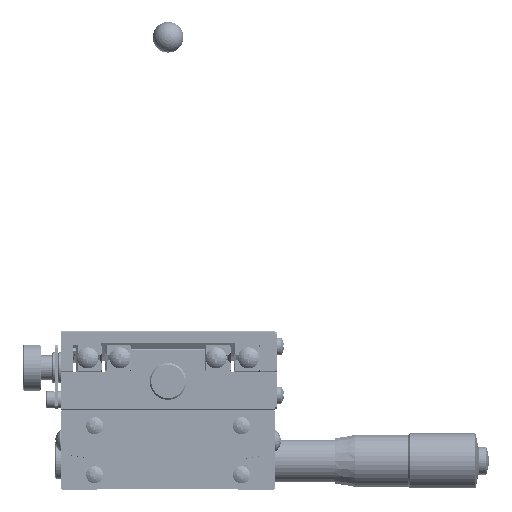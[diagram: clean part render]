
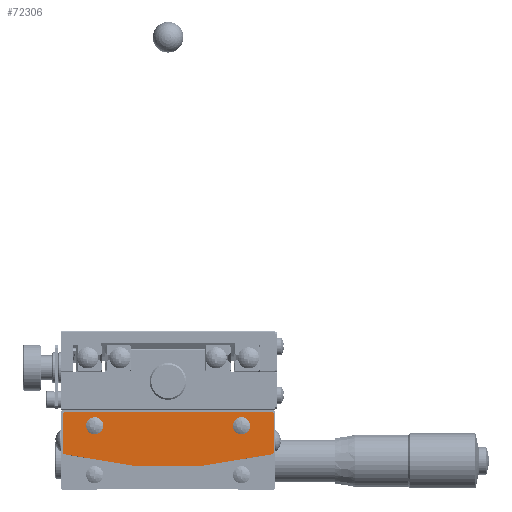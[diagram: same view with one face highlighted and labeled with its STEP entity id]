
A CAD part, front view. The second image highlights one B-rep face of the part: STEP entity #72306.
In plain terms, the highlighted planar face has unit normal (0, -1, 0).
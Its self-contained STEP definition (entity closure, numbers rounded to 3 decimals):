
#6646 = CARTESIAN_POINT ( 'NONE',  ( -26.8, -35.5, -5. ) ) ;
#6647 = DIRECTION ( 'NONE',  ( 0., 0., -1. ) ) ;
#6648 = DIRECTION ( 'NONE',  ( 0., 1., 0. ) ) ;
#6649 = AXIS2_PLACEMENT_3D ( 'NONE', #6655, #6648, #6647 ) ;
#6650 = CIRCLE ( 'NONE', #6649, 2.8 ) ;
#6655 = CARTESIAN_POINT ( 'NONE',  ( -24., -35.5, -5. ) ) ;
#6749 = CARTESIAN_POINT ( 'NONE',  ( 21.2, -35.5, -5. ) ) ;
#6750 = DIRECTION ( 'NONE',  ( 0., 0., -1. ) ) ;
#6751 = DIRECTION ( 'NONE',  ( 0., 1., 0. ) ) ;
#6752 = CARTESIAN_POINT ( 'NONE',  ( 24., -35.5, -5. ) ) ;
#6753 = AXIS2_PLACEMENT_3D ( 'NONE', #6752, #6751, #6750 ) ;
#6754 = CIRCLE ( 'NONE', #6753, 2.8 ) ;
#6781 = CARTESIAN_POINT ( 'NONE',  ( -21.2, -35.5, -5. ) ) ;
#6876 = CARTESIAN_POINT ( 'NONE',  ( 26.8, -35.5, -5. ) ) ;
#38979 = CARTESIAN_POINT ( 'NONE',  ( -34., -35.5, -0.5 ) ) ;
#42499 = EDGE_CURVE ( 'NONE', #42502, #42602, #6650, .T. ) ;
#42502 = VERTEX_POINT ( 'NONE', #6646 ) ;
#42572 = EDGE_CURVE ( 'NONE', #42575, #42679, #6754, .T. ) ;
#42575 = VERTEX_POINT ( 'NONE', #6749 ) ;
#42602 = VERTEX_POINT ( 'NONE', #6781 ) ;
#42611 = CARTESIAN_POINT ( 'NONE',  ( -34.121, -35.5, -14.294 ) ) ;
#42624 = DIRECTION ( 'NONE',  ( 0., 0., -1. ) ) ;
#42626 = DIRECTION ( 'NONE',  ( 0., 1., 0. ) ) ;
#42628 = AXIS2_PLACEMENT_3D ( 'NONE', #42637, #42626, #42624 ) ;
#42630 = CIRCLE ( 'NONE', #42628, 2.8 ) ;
#42637 = CARTESIAN_POINT ( 'NONE',  ( 24., -35.5, -5. ) ) ;
#42653 = DIRECTION ( 'NONE',  ( 1., 0., 0. ) ) ;
#42655 = DIRECTION ( 'NONE',  ( 0., -1., 0. ) ) ;
#42656 = CARTESIAN_POINT ( 'NONE',  ( 34., -35.5, -13.809 ) ) ;
#42658 = AXIS2_PLACEMENT_3D ( 'NONE', #42656, #42655, #42653 ) ;
#42660 = CIRCLE ( 'NONE', #42658, 0.5 ) ;
#42666 = CARTESIAN_POINT ( 'NONE',  ( 34.121, -35.5, -14.294 ) ) ;
#42679 = VERTEX_POINT ( 'NONE', #6876 ) ;
#42684 = DIRECTION ( 'NONE',  ( 1., 0., 0. ) ) ;
#42686 = DIRECTION ( 'NONE',  ( 0., -1., 0. ) ) ;
#42688 = CARTESIAN_POINT ( 'NONE',  ( 0., -35.5, 122. ) ) ;
#42689 = AXIS2_PLACEMENT_3D ( 'NONE', #42688, #42686, #42684 ) ;
#42691 = CIRCLE ( 'NONE', #42689, 140.5 ) ;
#42723 = PLANE ( 'NONE',  #42868 ) ;
#42728 = FACE_OUTER_BOUND ( 'NONE', #72201, .T. ) ;
#42729 = FACE_BOUND ( 'NONE', #72188, .T. ) ;
#42731 = FACE_BOUND ( 'NONE', #72308, .T. ) ;
#42749 = DIRECTION ( 'NONE',  ( -1., 0., 0. ) ) ;
#42750 = VECTOR ( 'NONE', #42749, 1000. ) ;
#42752 = CARTESIAN_POINT ( 'NONE',  ( 34., -35.5, -0.5 ) ) ;
#42754 = LINE ( 'NONE', #42752, #42750 ) ;
#42758 = CARTESIAN_POINT ( 'NONE',  ( 34., -35.5, -0.5 ) ) ;
#42775 = DIRECTION ( 'NONE',  ( -0.707, 0., 0.707 ) ) ;
#42776 = VECTOR ( 'NONE', #42775, 1000. ) ;
#42778 = CARTESIAN_POINT ( 'NONE',  ( 34.5, -35.5, -1. ) ) ;
#42780 = LINE ( 'NONE', #42778, #42776 ) ;
#42785 = CARTESIAN_POINT ( 'NONE',  ( 34.5, -35.5, -1. ) ) ;
#42787 = DIRECTION ( 'NONE',  ( 0., 0., 1. ) ) ;
#42788 = VECTOR ( 'NONE', #42787, 1000. ) ;
#42790 = CARTESIAN_POINT ( 'NONE',  ( 34.5, -35.5, -13.809 ) ) ;
#42791 = LINE ( 'NONE', #42790, #42788 ) ;
#42795 = CARTESIAN_POINT ( 'NONE',  ( 34.5, -35.5, -13.809 ) ) ;
#42852 = DIRECTION ( 'NONE',  ( 0., 0., -1. ) ) ;
#42854 = DIRECTION ( 'NONE',  ( 0., 1., 0. ) ) ;
#42855 = CARTESIAN_POINT ( 'NONE',  ( -24., -35.5, -5. ) ) ;
#42857 = AXIS2_PLACEMENT_3D ( 'NONE', #42855, #42854, #42852 ) ;
#42859 = CIRCLE ( 'NONE', #42857, 2.8 ) ;
#42864 = DIRECTION ( 'NONE',  ( 1., 0., 0. ) ) ;
#42866 = DIRECTION ( 'NONE',  ( 0., -1., 0. ) ) ;
#42867 = CARTESIAN_POINT ( 'NONE',  ( 0., -35.5, 122. ) ) ;
#42868 = AXIS2_PLACEMENT_3D ( 'NONE', #42867, #42866, #42864 ) ;
#42875 = DIRECTION ( 'NONE',  ( 1., 0., 0. ) ) ;
#42877 = DIRECTION ( 'NONE',  ( 0., -1., 0. ) ) ;
#42878 = CARTESIAN_POINT ( 'NONE',  ( -34., -35.5, -13.809 ) ) ;
#42880 = AXIS2_PLACEMENT_3D ( 'NONE', #42878, #42877, #42875 ) ;
#42882 = CIRCLE ( 'NONE', #42880, 0.5 ) ;
#42913 = CARTESIAN_POINT ( 'NONE',  ( -34.5, -35.5, -13.809 ) ) ;
#42915 = DIRECTION ( 'NONE',  ( 0., 0., -1. ) ) ;
#42917 = VECTOR ( 'NONE', #42915, 1000. ) ;
#42919 = CARTESIAN_POINT ( 'NONE',  ( -34.5, -35.5, -1. ) ) ;
#42920 = LINE ( 'NONE', #42919, #42917 ) ;
#42925 = CARTESIAN_POINT ( 'NONE',  ( -34.5, -35.5, -1. ) ) ;
#42936 = DIRECTION ( 'NONE',  ( -0.707, 0., -0.707 ) ) ;
#42938 = VECTOR ( 'NONE', #42936, 1000. ) ;
#42939 = CARTESIAN_POINT ( 'NONE',  ( -34., -35.5, -0.5 ) ) ;
#42941 = LINE ( 'NONE', #42939, #42938 ) ;
#70770 = VERTEX_POINT ( 'NONE', #38979 ) ;
#72183 = ORIENTED_EDGE ( 'NONE', *, *, #42499, .T. ) ;
#72188 = EDGE_LOOP ( 'NONE', ( #72192, #72196 ) ) ;
#72192 = ORIENTED_EDGE ( 'NONE', *, *, #72193, .T. ) ;
#72193 = EDGE_CURVE ( 'NONE', #42679, #42575, #42630, .T. ) ;
#72196 = ORIENTED_EDGE ( 'NONE', *, *, #42572, .T. ) ;
#72201 = EDGE_LOOP ( 'NONE', ( #72394, #72257, #72266, #72276, #72286, #72338, #72350, #72361 ) ) ;
#72203 = VERTEX_POINT ( 'NONE', #42611 ) ;
#72250 = EDGE_CURVE ( 'NONE', #72203, #72253, #42691, .T. ) ;
#72253 = VERTEX_POINT ( 'NONE', #42666 ) ;
#72257 = ORIENTED_EDGE ( 'NONE', *, *, #72261, .T. ) ;
#72261 = EDGE_CURVE ( 'NONE', #72253, #72263, #42660, .T. ) ;
#72263 = VERTEX_POINT ( 'NONE', #42795 ) ;
#72266 = ORIENTED_EDGE ( 'NONE', *, *, #72272, .T. ) ;
#72272 = EDGE_CURVE ( 'NONE', #72263, #72274, #42791, .T. ) ;
#72274 = VERTEX_POINT ( 'NONE', #42785 ) ;
#72276 = ORIENTED_EDGE ( 'NONE', *, *, #72278, .T. ) ;
#72278 = EDGE_CURVE ( 'NONE', #72274, #72284, #42780, .T. ) ;
#72284 = VERTEX_POINT ( 'NONE', #42758 ) ;
#72286 = ORIENTED_EDGE ( 'NONE', *, *, #72290, .T. ) ;
#72290 = EDGE_CURVE ( 'NONE', #72284, #70770, #42754, .T. ) ;
#72306 = ADVANCED_FACE ( 'NONE', ( #42731, #42729, #42728 ), #42723, .T. ) ;
#72308 = EDGE_LOOP ( 'NONE', ( #72310, #72183 ) ) ;
#72310 = ORIENTED_EDGE ( 'NONE', *, *, #72315, .T. ) ;
#72315 = EDGE_CURVE ( 'NONE', #42602, #42502, #42859, .T. ) ;
#72338 = ORIENTED_EDGE ( 'NONE', *, *, #72341, .T. ) ;
#72341 = EDGE_CURVE ( 'NONE', #70770, #72346, #42941, .T. ) ;
#72346 = VERTEX_POINT ( 'NONE', #42925 ) ;
#72350 = ORIENTED_EDGE ( 'NONE', *, *, #72352, .T. ) ;
#72352 = EDGE_CURVE ( 'NONE', #72346, #72354, #42920, .T. ) ;
#72354 = VERTEX_POINT ( 'NONE', #42913 ) ;
#72361 = ORIENTED_EDGE ( 'NONE', *, *, #72365, .T. ) ;
#72365 = EDGE_CURVE ( 'NONE', #72354, #72203, #42882, .T. ) ;
#72394 = ORIENTED_EDGE ( 'NONE', *, *, #72250, .T. ) ;
